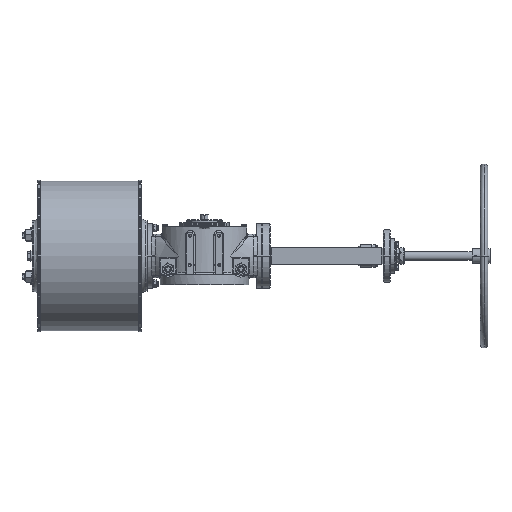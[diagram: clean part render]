
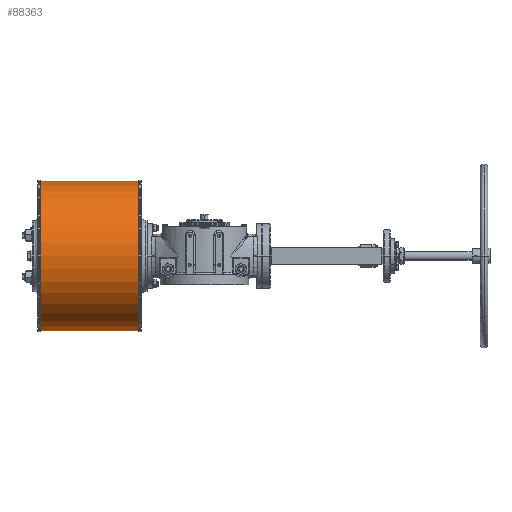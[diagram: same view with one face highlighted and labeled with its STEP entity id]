
A CAD part, front view. The second image highlights one B-rep face of the part: STEP entity #88363.
In plain terms, the highlighted cylindrical face has radius 254 mm (diameter 508 mm), a partial arc.
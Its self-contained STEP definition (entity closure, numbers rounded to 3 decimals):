
#458 = AXIS2_PLACEMENT_3D ( 'NONE', #60624, #60143, #89741 ) ;
#2257 = VERTEX_POINT ( 'NONE', #48393 ) ;
#2465 = EDGE_LOOP ( 'NONE', ( #87452, #54329, #62798, #61668 ) ) ;
#7883 = CARTESIAN_POINT ( 'NONE',  ( -223., 35.5, -179.5 ) ) ;
#8353 = LINE ( 'NONE', #7883, #37968 ) ;
#8879 = VECTOR ( 'NONE', #84080, 1000. ) ;
#9806 = EDGE_CURVE ( 'NONE', #15698, #92535, #55440, .T. ) ;
#12640 = AXIS2_PLACEMENT_3D ( 'NONE', #15317, #16764, #61457 ) ;
#15317 = CARTESIAN_POINT ( 'NONE',  ( -223., 35.5, 74.5 ) ) ;
#15698 = VERTEX_POINT ( 'NONE', #84123 ) ;
#16764 = DIRECTION ( 'NONE',  ( -1., 0., 0. ) ) ;
#17657 = EDGE_CURVE ( 'NONE', #92535, #65856, #90497, .T. ) ;
#20758 = CYLINDRICAL_SURFACE ( 'NONE', #86323, 254. ) ;
#21246 = DIRECTION ( 'NONE',  ( -1., 0., 0. ) ) ;
#37968 = VECTOR ( 'NONE', #67167, 1000. ) ;
#39878 = CARTESIAN_POINT ( 'NONE',  ( -223., 35.5, 328.5 ) ) ;
#42807 = EDGE_CURVE ( 'NONE', #2257, #15698, #60708, .T. ) ;
#48393 = CARTESIAN_POINT ( 'NONE',  ( -223., 35.5, -179.5 ) ) ;
#48898 = CARTESIAN_POINT ( 'NONE',  ( -558., 35.5, 328.5 ) ) ;
#54329 = ORIENTED_EDGE ( 'NONE', *, *, #42807, .T. ) ;
#55440 = LINE ( 'NONE', #39878, #8879 ) ;
#56398 = EDGE_CURVE ( 'NONE', #2257, #65856, #8353, .T. ) ;
#57715 = FACE_OUTER_BOUND ( 'NONE', #2465, .T. ) ;
#58197 = CARTESIAN_POINT ( 'NONE',  ( -223., 35.5, 74.5 ) ) ;
#60143 = DIRECTION ( 'NONE',  ( 1., 0., 0. ) ) ;
#60624 = CARTESIAN_POINT ( 'NONE',  ( -558., 35.5, 74.5 ) ) ;
#60708 = CIRCLE ( 'NONE', #12640, 254. ) ;
#61457 = DIRECTION ( 'NONE',  ( 0., 0., 1. ) ) ;
#61668 = ORIENTED_EDGE ( 'NONE', *, *, #17657, .T. ) ;
#62798 = ORIENTED_EDGE ( 'NONE', *, *, #9806, .T. ) ;
#65856 = VERTEX_POINT ( 'NONE', #81850 ) ;
#67167 = DIRECTION ( 'NONE',  ( -1., 0., 0. ) ) ;
#74648 = DIRECTION ( 'NONE',  ( 0., 0., 1. ) ) ;
#81850 = CARTESIAN_POINT ( 'NONE',  ( -558., 35.5, -179.5 ) ) ;
#84080 = DIRECTION ( 'NONE',  ( -1., 0., 0. ) ) ;
#84123 = CARTESIAN_POINT ( 'NONE',  ( -223., 35.5, 328.5 ) ) ;
#86323 = AXIS2_PLACEMENT_3D ( 'NONE', #58197, #21246, #74648 ) ;
#87452 = ORIENTED_EDGE ( 'NONE', *, *, #56398, .F. ) ;
#88363 = ADVANCED_FACE ( 'NONE', ( #57715 ), #20758, .T. ) ;
#89741 = DIRECTION ( 'NONE',  ( 0., 0., 1. ) ) ;
#90497 = CIRCLE ( 'NONE', #458, 254. ) ;
#92535 = VERTEX_POINT ( 'NONE', #48898 ) ;
